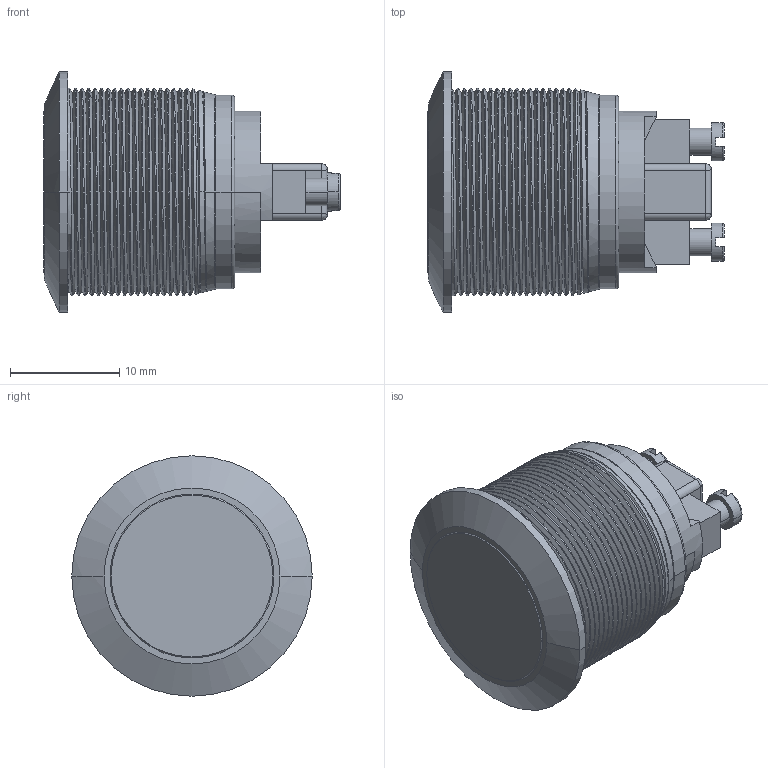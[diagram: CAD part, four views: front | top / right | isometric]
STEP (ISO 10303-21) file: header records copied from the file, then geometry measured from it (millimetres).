
FILE_DESCRIPTION((''),'2;1');
FILE_NAME('AV091003C9_SW0001','2015-03-19T',('mdamaggio'),(''),'CREO PARAMETRIC BY PTC INC, 2014440','CREO PARAMETRIC BY PTC INC, 2014440','');
FILE_SCHEMA(('CONFIG_CONTROL_DESIGN'));
Length unit declared in the file: millimetre
Products named in the file (1): AV091003C9_SW0001
Bounding box: 27.16 x 22 x 22 mm (x, y, z)
Surface area: 3535.8 mm2 (no closed solid volume)
Topology: 0 solids, 10 shells, 142 faces, 370 edges, 239 vertices
Faces by surface type: cylinder 59, plane 50, bspline 16, torus 8, cone 7, sphere 2
Entity records: 13459 total; most frequent: CARTESIAN_POINT 10195, ORIENTED_EDGE 710, DIRECTION 579, EDGE_CURVE 370, VERTEX_POINT 239, AXIS2_PLACEMENT_3D 199, VECTOR 181, LINE 181
